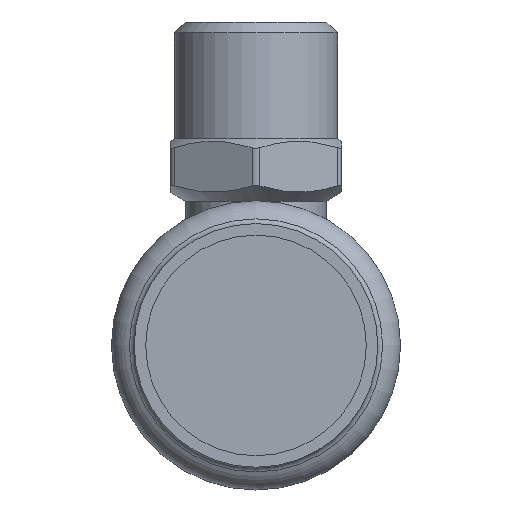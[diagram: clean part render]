
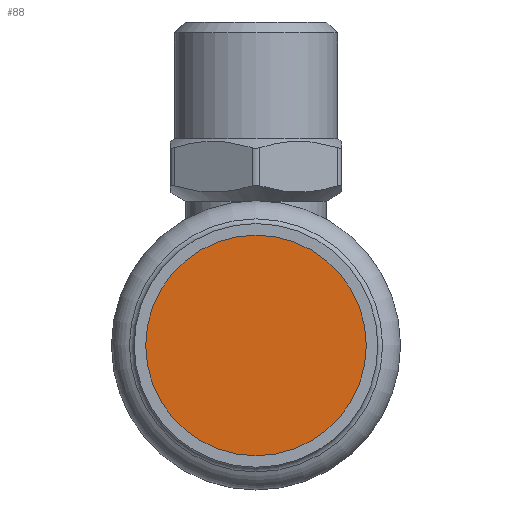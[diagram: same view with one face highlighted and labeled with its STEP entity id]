
A CAD part, front view. The second image highlights one B-rep face of the part: STEP entity #88.
In plain terms, the highlighted planar face has unit normal (0, -1, 0).
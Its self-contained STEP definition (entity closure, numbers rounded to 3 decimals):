
#88=ADVANCED_FACE('',(#381),#383,.T.);
#381=FACE_BOUND('',#382,.T.);
#382=EDGE_LOOP('',(#519));
#383=PLANE('',#384);
#384=AXIS2_PLACEMENT_3D('',#385,#386,#387);
#385=CARTESIAN_POINT('',(0.,-44.219,0.));
#386=DIRECTION('',(0.,-1.,0.));
#387=DIRECTION('',(0.,0.,-1.));
#519=ORIENTED_EDGE('',*,*,#582,.T.);
#582=EDGE_CURVE('',#694,#694,#695,.F.);
#694=VERTEX_POINT('',#2010);
#695=CIRCLE('',#2011,14.15);
#2010=CARTESIAN_POINT('',(0.,-44.219,14.15));
#2011=AXIS2_PLACEMENT_3D('',#2012,#2013,#2014);
#2012=CARTESIAN_POINT('',(0.,-44.219,0.));
#2013=DIRECTION('',(0.,1.,0.));
#2014=DIRECTION('',(0.,0.,1.));
